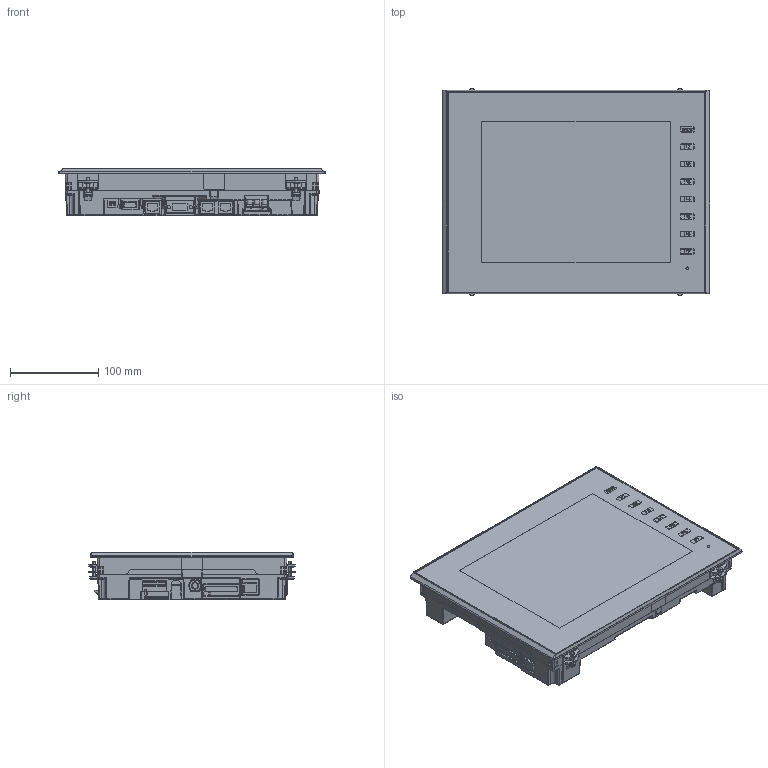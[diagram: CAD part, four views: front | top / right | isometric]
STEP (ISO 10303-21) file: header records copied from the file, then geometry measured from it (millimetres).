
FILE_DESCRIPTION((''),'2;1');
FILE_NAME('V910ICD-3D-DATA','2014-05-08T',('takahashi'),('Hakko Electronics Co.,Ltd.'),'PRO/ENGINEER BY PARAMETRIC TECHNOLOGY CORPORATION, 2007390','PRO/ENGINEER BY PARAMETRIC TECHNOLOGY CORPORATION, 2007390','');
FILE_SCHEMA(('CONFIG_CONTROL_DESIGN'));
Products named in the file (1): V910ICD-3D-DATA
Bounding box: 303.8 x 234.4 x 54 mm (x, y, z)
Volume: 3082391.3 mm3; surface area: 210530.7 mm2
Topology: 1 solids, 1 shells, 3540 faces, 9831 edges, 6394 vertices
Faces by surface type: plane 2772, cylinder 467, bspline 125, sphere 65, cone 52, torus 42, extrusion 17
Entity records: 128382 total; most frequent: CARTESIAN_POINT 39222, ORIENTED_EDGE 19654, DIRECTION 16585, EDGE_CURVE 9827, VECTOR 8281, LINE 8264, VERTEX_POINT 6394, AXIS2_PLACEMENT_3D 4152
